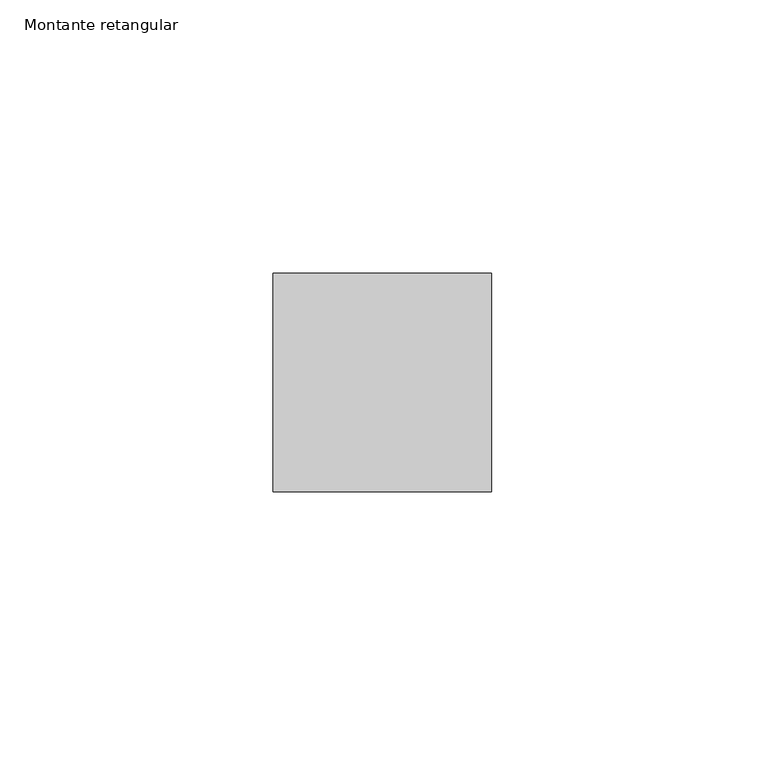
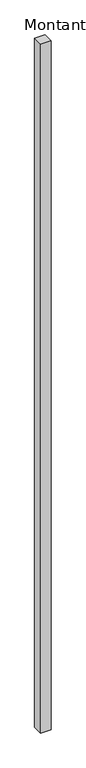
"""IFC4 building model written with IfcOpenShell, lengths in millimetres: member geometry, Montante retangular : RIPADO CUMARU 4x4."""

import ifcopenshell
import ifcopenshell.guid

model = None  # the IFC model being written
_history = None  # IfcOwnerHistory: only IFC2X3 demands one
_inside = {}  # id of a spatial element -> (the spatial element, [elements in it])
_under = {}  # id of a project, library or spatial element -> (it, [spatial elements below it])
_declared = {}  # id of a project -> (the project, [libraries it declares])
_typed = {}  # id of a type object -> (the type object, [elements of that type])
_made_of = {}  # id of a material, layer set ... -> (it, [elements and type objects made of it])


def new_model(schema):
    """Start an empty IFC model of exactly this schema.

    Asked for "IFC4X3", IfcOpenShell would pick the latest addendum, in which some entities
    have other attributes; the version numbers below select the first issue.
    IFC2X3 requires an IfcOwnerHistory on every rooted entity: one is made here for all.
    """
    global model, _history
    if schema == "IFC4X3":
        model = ifcopenshell.file(schema_version=(4, 3, 0, 0))
    else:
        model = ifcopenshell.file(schema=schema)
    _inside.clear()
    _under.clear()
    _declared.clear()
    _typed.clear()
    _made_of.clear()
    _history = None
    if model.schema == "IFC2X3":
        org = make("IfcOrganization", Name="unknown")
        user = make(
            "IfcPersonAndOrganization",
            ThePerson=make("IfcPerson", FamilyName="unknown"),
            TheOrganization=org,
        )
        app = make(
            "IfcApplication",
            ApplicationDeveloper=org,
            Version="unknown",
            ApplicationFullName="unknown",
            ApplicationIdentifier="unknown",
        )
        _history = make(
            "IfcOwnerHistory",
            OwningUser=user,
            OwningApplication=app,
            ChangeAction="ADDED",
            CreationDate=0,
        )
    return model


def make(cls, **values):
    """One entity of the class cls with the attributes given. An attribute that is None is left unset."""
    return model.create_entity(
        cls, **{name: value for name, value in values.items() if value is not None}
    )


def rooted(cls, **values):
    """An entity with a GlobalId (a new one), such as an element, a storey or a relation."""
    return make(cls, GlobalId=ifcopenshell.guid.new(), OwnerHistory=_history, **values)


def si_unit(unit_type, name, prefix=None):
    """IfcSIUnit, for example si_unit("LENGTHUNIT", "METRE", prefix="MILLI")."""
    return make("IfcSIUnit", UnitType=unit_type, Prefix=prefix, Name=name)


def assignment(units):
    """IfcUnitAssignment: the units of a project."""
    return None if units is None else make("IfcUnitAssignment", Units=units)


def point(xyz):
    """IfcCartesianPoint."""
    return None if xyz is None else make("IfcCartesianPoint", Coordinates=xyz)


def direction(xyz):
    """IfcDirection."""
    return None if xyz is None else make("IfcDirection", DirectionRatios=xyz)


def frame(location, z_axis=None, x_axis=None):
    """IfcAxis2Placement3D, a coordinate frame: its origin and axes. An axis left out is left unset."""
    return make(
        "IfcAxis2Placement3D",
        Location=point(location),
        Axis=direction(z_axis),
        RefDirection=direction(x_axis),
    )


def origin():
    """The frame at (0, 0, 0) with its axes left unset."""
    return frame((0.0, 0.0, 0.0))


def place(relative_to, where):
    """IfcLocalPlacement: puts the frame where relative to a parent placement (None: the world)."""
    return make(
        "IfcLocalPlacement", PlacementRelTo=relative_to, RelativePlacement=where
    )


def context(
    kind, dimensions, precision=None, world=None, true_north=None, identifier=None
):
    """IfcGeometricRepresentationContext, for example the 3D "Model" context."""
    return make(
        "IfcGeometricRepresentationContext",
        ContextIdentifier=identifier,
        ContextType=kind,
        CoordinateSpaceDimension=dimensions,
        Precision=precision,
        WorldCoordinateSystem=world,
        TrueNorth=true_north,
    )


def project(units=None, contexts=None):
    """IfcProject with its units and contexts."""
    return rooted(
        "IfcProject",
        Name="project",
        RepresentationContexts=contexts,
        UnitsInContext=assignment(units),
    )


def spatial(cls, under=None, at=None, **own):
    """A site, building, storey or space (cls), placed at a placement, below another one or the project."""
    s = rooted(cls, ObjectPlacement=at, **own)
    if under is not None:
        _under.setdefault(under.id(), (under, []))[1].append(s)
    return s


def polyline(points):
    """IfcPolyline through the points."""
    return make("IfcPolyline", Points=[point(p) for p in points])


def outline(outer, holes=None, kind="AREA"):
    """IfcArbitraryClosedProfileDef: a profile drawn as a closed curve; with holes, ...WithVoids."""
    if holes is None:
        return make("IfcArbitraryClosedProfileDef", ProfileType=kind, OuterCurve=outer)
    return make(
        "IfcArbitraryProfileDefWithVoids",
        ProfileType=kind,
        OuterCurve=outer,
        InnerCurves=holes,
    )


def extrude(swept, where, along, depth):
    """IfcExtrudedAreaSolid: the profile swept, set in the frame where, extruded along a direction by depth."""
    return make(
        "IfcExtrudedAreaSolid",
        SweptArea=swept,
        Position=where,
        ExtrudedDirection=direction(along),
        Depth=depth,
    )


def shape(context_of_items, identifier, shape_type, items):
    """IfcShapeRepresentation: the items that make up one representation, for example the "Body"."""
    return make(
        "IfcShapeRepresentation",
        ContextOfItems=context_of_items,
        RepresentationIdentifier=identifier,
        RepresentationType=shape_type,
        Items=items,
    )


def source(mapping_origin, context_of_items, identifier, shape_type, items):
    """IfcRepresentationMap: a shape defined once, which mapped items show again and again."""
    return make(
        "IfcRepresentationMap",
        MappingOrigin=mapping_origin,
        MappedRepresentation=shape(context_of_items, identifier, shape_type, items),
    )


def transform(
    local_origin,
    x_axis=None,
    y_axis=None,
    z_axis=None,
    scale=None,
    scale2=None,
    scale3=None,
    uniform=True,
):
    """IfcCartesianTransformationOperator3D, or its non-uniform kind. x_axis, y_axis, z_axis: its Axis1, 2, 3."""
    if uniform:
        return make(
            "IfcCartesianTransformationOperator3D",
            Axis1=direction(x_axis),
            Axis2=direction(y_axis),
            LocalOrigin=point(local_origin),
            Scale=scale,
            Axis3=direction(z_axis),
        )
    return make(
        "IfcCartesianTransformationOperator3DnonUniform",
        Axis1=direction(x_axis),
        Axis2=direction(y_axis),
        LocalOrigin=point(local_origin),
        Scale=scale,
        Axis3=direction(z_axis),
        Scale2=scale2,
        Scale3=scale3,
    )


def mapped(mapping_source, mapping_target):
    """IfcMappedItem: shows the shape of a source again, moved by a transform."""
    return make(
        "IfcMappedItem", MappingSource=mapping_source, MappingTarget=mapping_target
    )


def made_of(thing, what):
    """Note that an element or type object is made of a material, layer set ...; save() writes the relation."""
    if what is not None:
        _made_of.setdefault(what.id(), (what, []))[1].append(thing)
    return thing


def element(
    cls,
    number,
    at=None,
    inside=None,
    cuts=None,
    type_object=None,
    material=None,
    context=None,
    identifier="Body",
    shape_type=None,
    held_by="IfcProductDefinitionShape",
    body=None,
    shapes=None,
    **own,
):
    """One element of the class cls, such as IfcWall. Its Tag is "e" and its number.

    at: its placement. inside: the storey or other place that contains it. cuts: it is an
    opening in that element (IfcRelVoidsElement). A single representation is given by context,
    identifier, shape_type and body (its items); several are given by shapes. held_by: the class
    of the entity that holds the representations. save() writes the other relations.
    """
    e = rooted(cls, Tag="e%d" % number, ObjectPlacement=at, **own)
    if body is not None:
        shapes = [shape(context, identifier, shape_type, body)]
    if shapes is not None:
        e.Representation = make(held_by, Representations=shapes)
    if inside is not None:
        _inside.setdefault(inside.id(), (inside, []))[1].append(e)
    if cuts is not None:
        rooted(
            "IfcRelVoidsElement", RelatingBuildingElement=cuts, RelatedOpeningElement=e
        )
    if type_object is not None:
        _typed.setdefault(type_object.id(), (type_object, []))[1].append(e)
    return made_of(e, material)


def aggregate(whole, parts):
    """IfcRelAggregates: a whole, such as a stair, and the parts it consists of."""
    return rooted("IfcRelAggregates", RelatingObject=whole, RelatedObjects=parts)


def save(model, path):
    """Write the relations noted so far, then the file.

    IfcRelAggregates (storeys below a building ...), IfcRelContainedInSpatialStructure (elements
    in a storey), IfcRelDefinesByType, IfcRelAssociatesMaterial and IfcRelDeclares: one each for
    every whole, place, type object, material and project.
    """
    for whole, parts in _under.values():
        aggregate(whole, parts)
    for where, things in _inside.values():
        rooted(
            "IfcRelContainedInSpatialStructure",
            RelatedElements=things,
            RelatingStructure=where,
        )
    for kind, things in _typed.values():
        rooted("IfcRelDefinesByType", RelatedObjects=things, RelatingType=kind)
    for what, things in _made_of.values():
        rooted("IfcRelAssociatesMaterial", RelatedObjects=things, RelatingMaterial=what)
    for by, libraries in _declared.values():
        rooted("IfcRelDeclares", RelatingContext=by, RelatedDefinitions=libraries)
    model.write(path)


def montante_retangular_4dd091b7(model_context):
    return source(origin(), model_context, "Body", "SweptSolid", [
        extrude(outline(polyline([(20.0, 0.0), (20.0, -40.0), (-20.0, -40.0), (-20.0, 0.0), (20.0, 0.0)])), frame((0.0, 0.0, -2800.0), z_axis=(0.0, 0.0, 1.0), x_axis=(1.0, 0.0, 0.0)), (0.0, 0.0, 1.0), 2800.0),
    ])


if __name__ == "__main__":
    model = new_model("IFC4")
    model_context = context("Model", 3, world=origin())
    ifc_project = project(units=[si_unit("LENGTHUNIT", "METRE", prefix="MILLI")], contexts=[model_context])
    site = spatial("IfcSite", under=ifc_project)
    building = spatial("IfcBuilding", under=site)
    placement = place(None, origin())
    montante_retangular_shape = montante_retangular_4dd091b7(model_context)
    element("IfcMember", 1, ObjectType="Montante retangular : RIPADO CUMARU 4x4", at=placement, inside=building, context=model_context, shape_type="MappedRepresentation", body=[
        mapped(montante_retangular_shape, transform((0.0, 0.0, 0.0), x_axis=(1.0, 0.0, 0.0), y_axis=(0.0, 1.0, 0.0), z_axis=(0.0, 0.0, 1.0))),
    ])
    save(model, "model.ifc")
